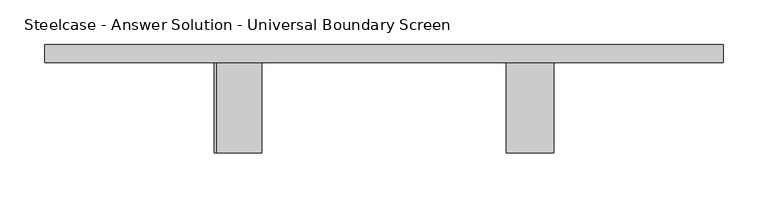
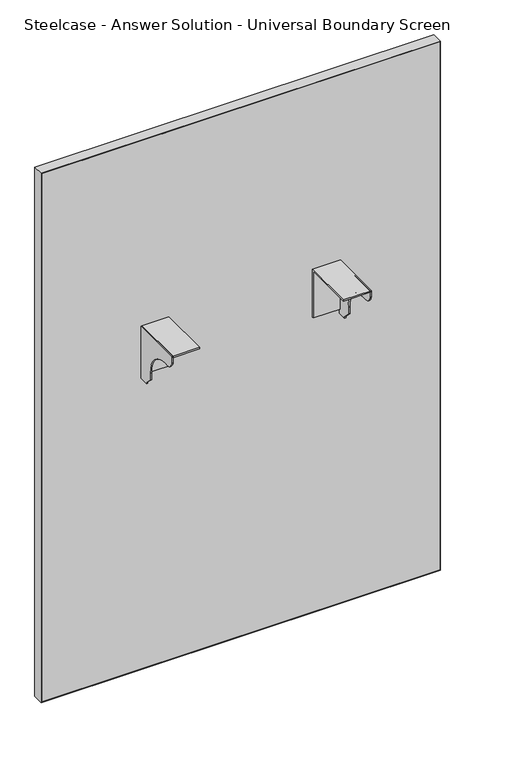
"""IFC4 building model written with IfcOpenShell, lengths in millimetres: furniture geometry, Steelcase - Answer Solution - Universal Boundary Screen : 42H x 30W."""

from ifc_helpers import new_model, si_unit, point, frame, frame_2d, origin, place, context, project, spatial, polyline, circle_curve, trimmed, segment, composite_curve, outline, extrude, source, transform, mapped, element, save


def steelcase_answer_solution_universal_boundary_screen_af3f1301(model_context):
    return source(origin(), model_context, "Body", "SweptSolid", [
        extrude(outline(polyline([(-103.1670434, 689.3558876), (-103.1670434, 692.1499758), (-1.5668826, 692.1499758), (-1.5668826, 595.5029317), (-4.1079736, 595.5029317), (-4.1079736, 689.3558876), (-103.1670434, 689.3558876)])), frame((667.2336711, 0.0, 0.0), z_axis=(1.0, 0.0, 0.0), x_axis=(0.0, 1.0, 0.0)), (0.0, 0.0, 1.0), 53.3444116),
        extrude(outline(composite_curve([segment(polyline([(-103.1670434, 679.2814802), (-103.1670434, 692.1499758), (-1.5668826, 692.1499758), (-1.5668826, 586.9634093), (-19.8232934, 586.9634093), (-19.8232934, 589.7574248), (-32.0458032, 601.9799346), (-32.0458032, 615.7814802)]), True, "CONTINUOUS"), segment(trimmed(circle_curve(frame_2d((-82.8458032, 615.7814802)), 50.8), [point((-32.0458032, 615.7814802))], [point((-82.8458032, 666.5814802))], True, "CARTESIAN"), True, "CONTINUOUS"), segment(polyline([(-82.8458032, 666.5814802), (-90.4670434, 666.5814802)]), True, "CONTINUOUS"), segment(trimmed(circle_curve(frame_2d((-90.4670434, 679.2814802)), 12.7), [point((-90.4670434, 666.5814802))], [point((-103.1670434, 679.2814802))], False, "CARTESIAN"), True, "CONTINUOUS")], self_intersect=False)), frame((718.0328959, 0.0, 0.0), z_axis=(1.0, 0.0, 0.0), x_axis=(0.0, 1.0, 0.0)), (0.0, 0.0, 1.0), 2.5451868),
        extrude(outline(polyline([(-103.1670434, 689.3558876), (-103.1670434, 692.1499758), (-1.5668826, 692.1499758), (-1.5668826, 595.5029317), (-4.1079736, 595.5029317), (-4.1079736, 689.3558876), (-103.1670434, 689.3558876)])), frame((342.1232694, 0.0, 0.0), z_axis=(1.0, 0.0, 0.0), x_axis=(0.0, 1.0, 0.0)), (0.0, 0.0, 1.0), 50.7992249),
        extrude(outline(composite_curve([segment(polyline([(-103.1670434, 679.2814802), (-103.1670434, 692.1499758), (-1.5668826, 692.1499758), (-1.5668826, 586.9634093), (-19.8232934, 586.9634093), (-19.8232934, 589.7574248), (-32.0458032, 601.9799346), (-32.0458032, 615.7814802)]), True, "CONTINUOUS"), segment(trimmed(circle_curve(frame_2d((-82.8458032, 615.7814802)), 50.8), [point((-32.0458032, 615.7814802))], [point((-82.8458032, 666.5814802))], True, "CARTESIAN"), True, "CONTINUOUS"), segment(polyline([(-82.8458032, 666.5814802), (-90.4670434, 666.5814802)]), True, "CONTINUOUS"), segment(trimmed(circle_curve(frame_2d((-90.4670434, 679.2814802)), 12.7), [point((-90.4670434, 666.5814802))], [point((-103.1670434, 679.2814802))], False, "CARTESIAN"), True, "CONTINUOUS")], self_intersect=False)), frame((339.5780827, 0.0, 0.0), z_axis=(1.0, 0.0, 0.0), x_axis=(0.0, 1.0, 0.0)), (0.0, 0.0, 1.0), 2.5451868),
        extrude(outline(polyline([(150.0706578, 18.9055112), (910.0855076, 18.9055112), (910.0855076, -1.5668826), (150.0706578, -1.5668826), (150.0706578, 18.9055112)])), frame((0.0, 0.0, 1.016), z_axis=(0.0, 0.0, 1.0), x_axis=(1.0, 0.0, 0.0)), (0.0, 0.0, 1.0), 1064.7914249),
        extrude(outline(polyline([(1066.8, 911.0780827), (1066.8, 149.0780827), (0.0, 149.0780827), (0.0, 911.0780827), (1066.8, 911.0780827)]), holes=[polyline([(1065.8074249, 910.0855076), (1.016, 910.0855076), (1.016, 150.0706578), (1065.8074249, 150.0706578), (1065.8074249, 910.0855076)])]), frame((0.0, -1.5668826, 0.0), z_axis=(0.0, 1.0, 0.0), x_axis=(0.0, 0.0, 1.0)), (0.0, 0.0, 1.0), 20.4723938),
    ])


if __name__ == "__main__":
    model = new_model("IFC4")
    model_context = context("Model", 3, world=origin())
    ifc_project = project(units=[si_unit("LENGTHUNIT", "METRE", prefix="MILLI")], contexts=[model_context])
    site = spatial("IfcSite", under=ifc_project)
    building = spatial("IfcBuilding", under=site)
    placement = place(None, origin())
    steelcase_answer_solution_universal_boundary_screen_shape = steelcase_answer_solution_universal_boundary_screen_af3f1301(model_context)
    element("IfcFurniture", 1, ObjectType="Steelcase - Answer Solution - Universal Boundary Screen : 42H x 30W", at=placement, inside=building, context=model_context, shape_type="MappedRepresentation", body=[
        mapped(steelcase_answer_solution_universal_boundary_screen_shape, transform((0.0, 0.0, 0.0), x_axis=(1.0, 0.0, 0.0), y_axis=(0.0, 1.0, 0.0), z_axis=(0.0, 0.0, 1.0))),
    ])
    save(model, "model.ifc")
